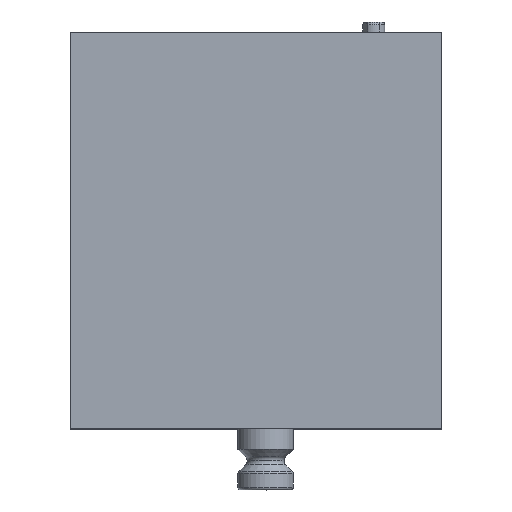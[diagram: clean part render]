
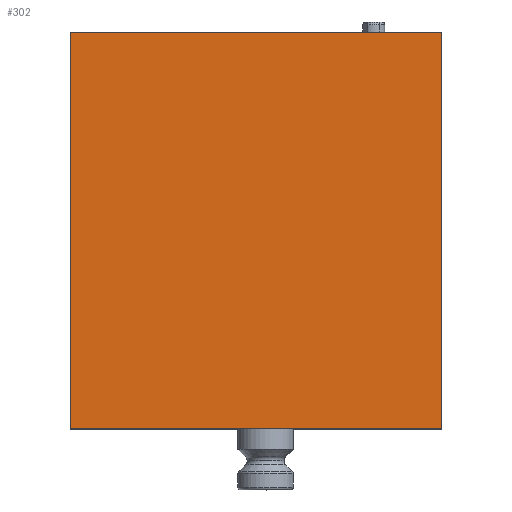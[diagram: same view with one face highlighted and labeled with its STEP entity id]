
A CAD part, top view. The second image highlights one B-rep face of the part: STEP entity #302.
In plain terms, the highlighted planar face has unit normal (0, 0, 1).
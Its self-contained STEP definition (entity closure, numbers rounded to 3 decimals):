
#5 = EDGE_CURVE ( 'NONE', #898, #970, #2432, .T. ) ;
#198 = VERTEX_POINT ( 'NONE', #1658 ) ;
#229 = DIRECTION ( 'NONE',  ( -1., 0., 0. ) ) ;
#241 = ORIENTED_EDGE ( 'NONE', *, *, #530, .T. ) ;
#294 = VECTOR ( 'NONE', #3029, 1000. ) ;
#302 = ADVANCED_FACE ( 'NONE', ( #2568 ), #1764, .F. ) ;
#530 = EDGE_CURVE ( 'NONE', #198, #898, #3010, .T. ) ;
#719 = ORIENTED_EDGE ( 'NONE', *, *, #2405, .F. ) ;
#752 = LINE ( 'NONE', #3055, #3283 ) ;
#857 = DIRECTION ( 'NONE',  ( -1., 0., 0. ) ) ;
#898 = VERTEX_POINT ( 'NONE', #3281 ) ;
#930 = CARTESIAN_POINT ( 'NONE',  ( -67., -143., 22.5 ) ) ;
#951 = CARTESIAN_POINT ( 'NONE',  ( 67., -143., 22.5 ) ) ;
#970 = VERTEX_POINT ( 'NONE', #2830 ) ;
#1222 = CARTESIAN_POINT ( 'NONE',  ( -67., -143., 22.5 ) ) ;
#1658 = CARTESIAN_POINT ( 'NONE',  ( 67., -143., 22.5 ) ) ;
#1764 = PLANE ( 'NONE',  #3168 ) ;
#1954 = VECTOR ( 'NONE', #857, 1000. ) ;
#2010 = CARTESIAN_POINT ( 'NONE',  ( -67., -143., 22.5 ) ) ;
#2061 = DIRECTION ( 'NONE',  ( 0., 1., 0. ) ) ;
#2245 = VERTEX_POINT ( 'NONE', #1222 ) ;
#2405 = EDGE_CURVE ( 'NONE', #2245, #970, #2974, .T. ) ;
#2432 = LINE ( 'NONE', #3137, #1954 ) ;
#2541 = EDGE_CURVE ( 'NONE', #198, #2245, #752, .T. ) ;
#2568 = FACE_OUTER_BOUND ( 'NONE', #2611, .T. ) ;
#2611 = EDGE_LOOP ( 'NONE', ( #2741, #719, #3315, #241 ) ) ;
#2741 = ORIENTED_EDGE ( 'NONE', *, *, #5, .T. ) ;
#2830 = CARTESIAN_POINT ( 'NONE',  ( -67., 0., 22.5 ) ) ;
#2974 = LINE ( 'NONE', #930, #3112 ) ;
#3010 = LINE ( 'NONE', #951, #294 ) ;
#3029 = DIRECTION ( 'NONE',  ( 0., 1., 0. ) ) ;
#3037 = DIRECTION ( 'NONE',  ( 0., 0., -1. ) ) ;
#3055 = CARTESIAN_POINT ( 'NONE',  ( -67., -143., 22.5 ) ) ;
#3112 = VECTOR ( 'NONE', #3208, 1000. ) ;
#3137 = CARTESIAN_POINT ( 'NONE',  ( -67., 0., 22.5 ) ) ;
#3168 = AXIS2_PLACEMENT_3D ( 'NONE', #2010, #3037, #2061 ) ;
#3208 = DIRECTION ( 'NONE',  ( 0., 1., 0. ) ) ;
#3281 = CARTESIAN_POINT ( 'NONE',  ( 67., 0., 22.5 ) ) ;
#3283 = VECTOR ( 'NONE', #229, 1000. ) ;
#3315 = ORIENTED_EDGE ( 'NONE', *, *, #2541, .F. ) ;
